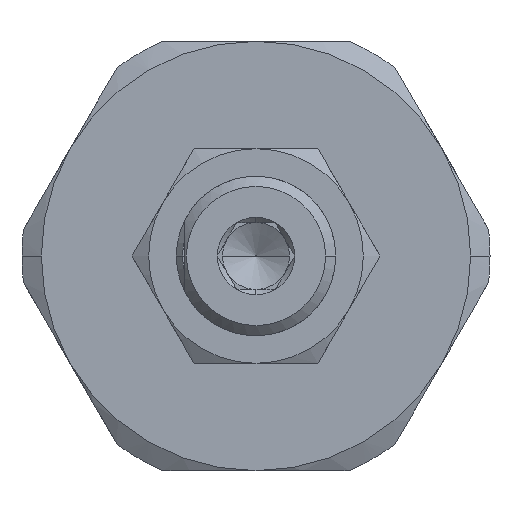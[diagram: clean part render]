
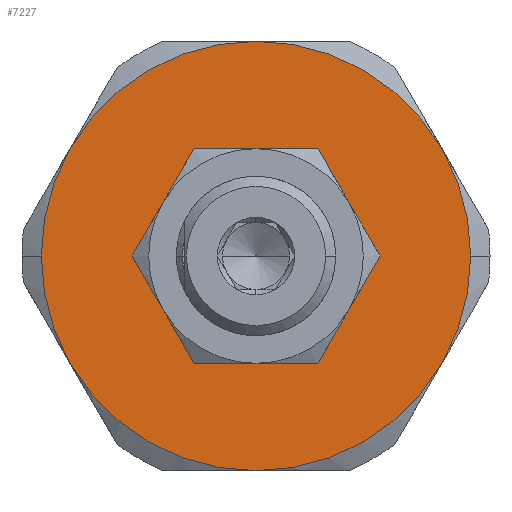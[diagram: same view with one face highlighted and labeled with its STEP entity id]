
A CAD part, left-side view. The second image highlights one B-rep face of the part: STEP entity #7227.
In plain terms, the highlighted planar face has unit normal (-1, 0, 0).
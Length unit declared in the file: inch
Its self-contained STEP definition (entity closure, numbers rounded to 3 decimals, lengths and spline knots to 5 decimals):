
#1190=CARTESIAN_POINT('',(0.,0.5,2.));
#1191=VERTEX_POINT('',#1190);
#1207=CARTESIAN_POINT('',(0.,0.43301,1.75));
#1208=VERTEX_POINT('',#1207);
#1222=CARTESIAN_POINT('',(0.,0.,2.0));
#1223=DIRECTION('',(-1.0,0.0,0.0));
#1224=DIRECTION('',(0.0,1.0,0.0));
#1225=AXIS2_PLACEMENT_3D('',#1222,#1223,#1224);
#1226=CIRCLE('',#1225,0.5);
#1227=EDGE_CURVE('',#1191,#1208,#1226,.T.);
#1237=CARTESIAN_POINT('',(0.,-0.5,2.0));
#1238=VERTEX_POINT('',#1237);
#1245=CARTESIAN_POINT('',(0.,-0.43301,1.75));
#1246=VERTEX_POINT('',#1245);
#1247=CARTESIAN_POINT('',(0.,0.,2.0));
#1248=DIRECTION('',(-1.0,0.0,0.0));
#1249=DIRECTION('',(0.0,1.0,0.0));
#1250=AXIS2_PLACEMENT_3D('',#1247,#1248,#1249);
#1251=CIRCLE('',#1250,0.5);
#1252=EDGE_CURVE('',#1246,#1238,#1251,.T.);
#5638=CARTESIAN_POINT('',(0.,0.21651,2.125));
#5639=VERTEX_POINT('',#5638);
#5653=CARTESIAN_POINT('',(0.,0.,2.25));
#5654=VERTEX_POINT('',#5653);
#5668=CARTESIAN_POINT('',(0.,0.,2.0));
#5669=DIRECTION('',(1.0,0.0,0.0));
#5670=DIRECTION('',(0.0,0.0,1.0));
#5671=AXIS2_PLACEMENT_3D('',#5668,#5669,#5670);
#5672=CIRCLE('',#5671,0.25);
#5673=EDGE_CURVE('',#5639,#5654,#5672,.T.);
#5685=CARTESIAN_POINT('',(0.,0.21651,1.875));
#5686=VERTEX_POINT('',#5685);
#5713=CARTESIAN_POINT('',(0.,0.,2.0));
#5714=DIRECTION('',(1.0,0.0,0.0));
#5715=DIRECTION('',(0.0,0.0,1.0));
#5716=AXIS2_PLACEMENT_3D('',#5713,#5714,#5715);
#5717=CIRCLE('',#5716,0.25);
#5718=EDGE_CURVE('',#5686,#5639,#5717,.T.);
#5730=CARTESIAN_POINT('',(0.,0.,1.75));
#5731=VERTEX_POINT('',#5730);
#5758=CARTESIAN_POINT('',(0.,0.,2.0));
#5759=DIRECTION('',(1.0,0.0,0.0));
#5760=DIRECTION('',(0.0,0.0,1.0));
#5761=AXIS2_PLACEMENT_3D('',#5758,#5759,#5760);
#5762=CIRCLE('',#5761,0.25);
#5763=EDGE_CURVE('',#5731,#5686,#5762,.T.);
#5788=CARTESIAN_POINT('',(0.,-0.21651,1.875));
#5789=VERTEX_POINT('',#5788);
#5790=CARTESIAN_POINT('',(0.,0.,2.0));
#5791=DIRECTION('',(1.0,0.0,0.0));
#5792=DIRECTION('',(0.0,0.0,1.0));
#5793=AXIS2_PLACEMENT_3D('',#5790,#5791,#5792);
#5794=CIRCLE('',#5793,0.25);
#5795=EDGE_CURVE('',#5789,#5731,#5794,.T.);
#5833=CARTESIAN_POINT('',(0.,-0.21651,2.125));
#5834=VERTEX_POINT('',#5833);
#5835=CARTESIAN_POINT('',(0.,0.,2.0));
#5836=DIRECTION('',(1.0,0.0,0.0));
#5837=DIRECTION('',(0.0,0.0,1.0));
#5838=AXIS2_PLACEMENT_3D('',#5835,#5836,#5837);
#5839=CIRCLE('',#5838,0.25);
#5840=EDGE_CURVE('',#5834,#5789,#5839,.T.);
#5878=CARTESIAN_POINT('',(0.,0.,2.0));
#5879=DIRECTION('',(1.0,0.0,0.0));
#5880=DIRECTION('',(0.0,0.0,1.0));
#5881=AXIS2_PLACEMENT_3D('',#5878,#5879,#5880);
#5882=CIRCLE('',#5881,0.25);
#5883=EDGE_CURVE('',#5654,#5834,#5882,.T.);
#7160=CARTESIAN_POINT('',(0.,0.,2.));
#7161=DIRECTION('',(1.0,0.0,0.0));
#7162=DIRECTION('',(0.0,0.0,-1.0));
#7163=AXIS2_PLACEMENT_3D('',#7160,#7161,#7162);
#7164=PLANE('',#7163);
#7165=CARTESIAN_POINT('',(0.,-0.43301,2.25));
#7166=VERTEX_POINT('',#7165);
#7167=CARTESIAN_POINT('',(0.,0.,2.5));
#7168=VERTEX_POINT('',#7167);
#7169=CARTESIAN_POINT('',(0.,0.,2.0));
#7170=DIRECTION('',(-1.0,0.0,0.0));
#7171=DIRECTION('',(0.0,1.0,0.0));
#7172=AXIS2_PLACEMENT_3D('',#7169,#7170,#7171);
#7173=CIRCLE('',#7172,0.5);
#7174=EDGE_CURVE('',#7166,#7168,#7173,.T.);
#7175=ORIENTED_EDGE('',*,*,#7174,.T.);
#7176=CARTESIAN_POINT('',(0.,0.43301,2.25));
#7177=VERTEX_POINT('',#7176);
#7178=CARTESIAN_POINT('',(0.,0.,2.0));
#7179=DIRECTION('',(-1.0,0.0,0.0));
#7180=DIRECTION('',(0.0,1.0,0.0));
#7181=AXIS2_PLACEMENT_3D('',#7178,#7179,#7180);
#7182=CIRCLE('',#7181,0.5);
#7183=EDGE_CURVE('',#7168,#7177,#7182,.T.);
#7184=ORIENTED_EDGE('',*,*,#7183,.T.);
#7185=CARTESIAN_POINT('',(0.,0.,2.0));
#7186=DIRECTION('',(-1.0,0.0,0.0));
#7187=DIRECTION('',(0.0,1.0,0.0));
#7188=AXIS2_PLACEMENT_3D('',#7185,#7186,#7187);
#7189=CIRCLE('',#7188,0.5);
#7190=EDGE_CURVE('',#7177,#1191,#7189,.T.);
#7191=ORIENTED_EDGE('',*,*,#7190,.T.);
#7192=ORIENTED_EDGE('',*,*,#1227,.T.);
#7193=CARTESIAN_POINT('',(0.,0.,1.5));
#7194=VERTEX_POINT('',#7193);
#7195=CARTESIAN_POINT('',(0.,0.,2.0));
#7196=DIRECTION('',(-1.0,0.0,0.0));
#7197=DIRECTION('',(0.0,1.0,0.0));
#7198=AXIS2_PLACEMENT_3D('',#7195,#7196,#7197);
#7199=CIRCLE('',#7198,0.5);
#7200=EDGE_CURVE('',#1208,#7194,#7199,.T.);
#7201=ORIENTED_EDGE('',*,*,#7200,.T.);
#7202=CARTESIAN_POINT('',(0.,0.,2.0));
#7203=DIRECTION('',(-1.0,0.0,0.0));
#7204=DIRECTION('',(0.0,1.0,0.0));
#7205=AXIS2_PLACEMENT_3D('',#7202,#7203,#7204);
#7206=CIRCLE('',#7205,0.5);
#7207=EDGE_CURVE('',#7194,#1246,#7206,.T.);
#7208=ORIENTED_EDGE('',*,*,#7207,.T.);
#7209=ORIENTED_EDGE('',*,*,#1252,.T.);
#7210=CARTESIAN_POINT('',(0.,0.,2.0));
#7211=DIRECTION('',(-1.0,0.0,0.0));
#7212=DIRECTION('',(0.0,1.0,0.0));
#7213=AXIS2_PLACEMENT_3D('',#7210,#7211,#7212);
#7214=CIRCLE('',#7213,0.5);
#7215=EDGE_CURVE('',#1238,#7166,#7214,.T.);
#7216=ORIENTED_EDGE('',*,*,#7215,.T.);
#7217=EDGE_LOOP('',(#7175,#7184,#7191,#7192,#7201,#7208,#7209,#7216));
#7218=FACE_OUTER_BOUND('',#7217,.T.);
#7219=ORIENTED_EDGE('',*,*,#5673,.T.);
#7220=ORIENTED_EDGE('',*,*,#5883,.T.);
#7221=ORIENTED_EDGE('',*,*,#5840,.T.);
#7222=ORIENTED_EDGE('',*,*,#5795,.T.);
#7223=ORIENTED_EDGE('',*,*,#5763,.T.);
#7224=ORIENTED_EDGE('',*,*,#5718,.T.);
#7225=EDGE_LOOP('',(#7219,#7220,#7221,#7222,#7223,#7224));
#7226=FACE_BOUND('',#7225,.T.);
#7227=ADVANCED_FACE('',(#7218,#7226),#7164,.F.);
